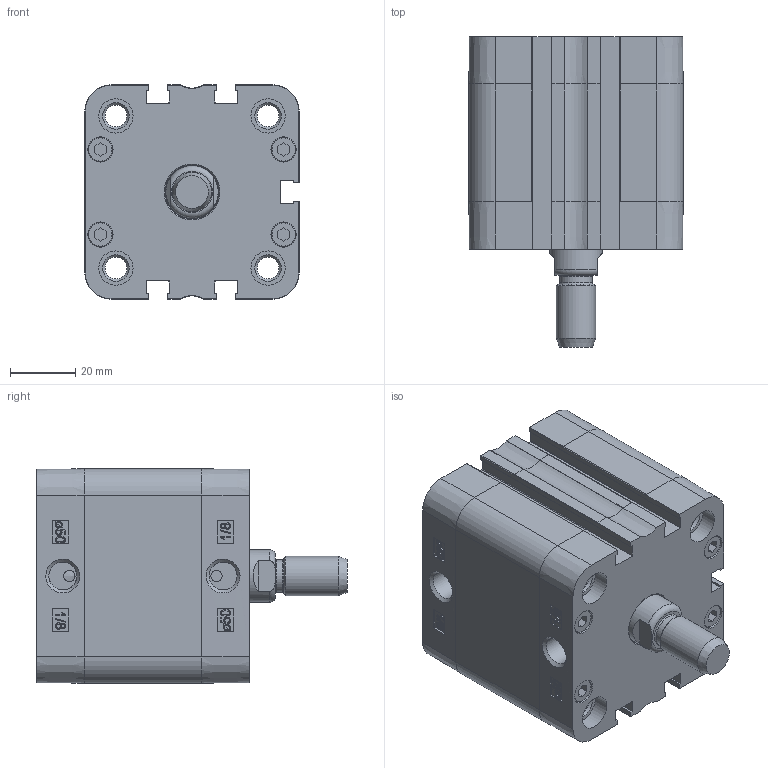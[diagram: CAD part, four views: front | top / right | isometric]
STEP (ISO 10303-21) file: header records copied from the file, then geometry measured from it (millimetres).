
FILE_DESCRIPTION((''),'2;1');
FILE_NAME('T:\Archivio Inventor\- CATALOGHI 2012\SERIE P - NUOVA\PDM\PDM050\PDM050.---.GS.M\PDM050.020.GS.M.stp','2013-02-01T12:17:47',('Administrator'),(''),'Autodesk Inventor 2012','Autodesk Inventor 2012','');
FILE_SCHEMA(('CONFIG_CONTROL_DESIGN'));
Length unit declared in the file: millimetre
Products named in the file (1): PDM050.020.GS.M
Bounding box: 65.5 x 95 x 65.5 mm (x, y, z)
Volume: 159936.4 mm3; surface area: 61576.4 mm2
Topology: 2 solids, 6 shells, 780 faces, 1860 edges, 1167 vertices
Faces by surface type: plane 335, bspline 196, cylinder 131, torus 56, cone 46, sphere 16
Full cylindrical faces by diameter (mm): 3.5 x2, 5.2 x4, 6.647 x8, 7.5 x8, 7.7 x8, 8.047 x4, 8.566 x2, 10 x1, 10.5 x8, 12 x2, 16 x1, 16.5 x1, 50 x1, 52.4 x1, 52.6 x1
Entity records: 25589 total; most frequent: CARTESIAN_POINT 8474, ORIENTED_EDGE 3488, DIRECTION 2866, EDGE_CURVE 1744, VERTEX_POINT 1148, AXIS2_PLACEMENT_3D 978, EDGE_LOOP 962, VECTOR 910
